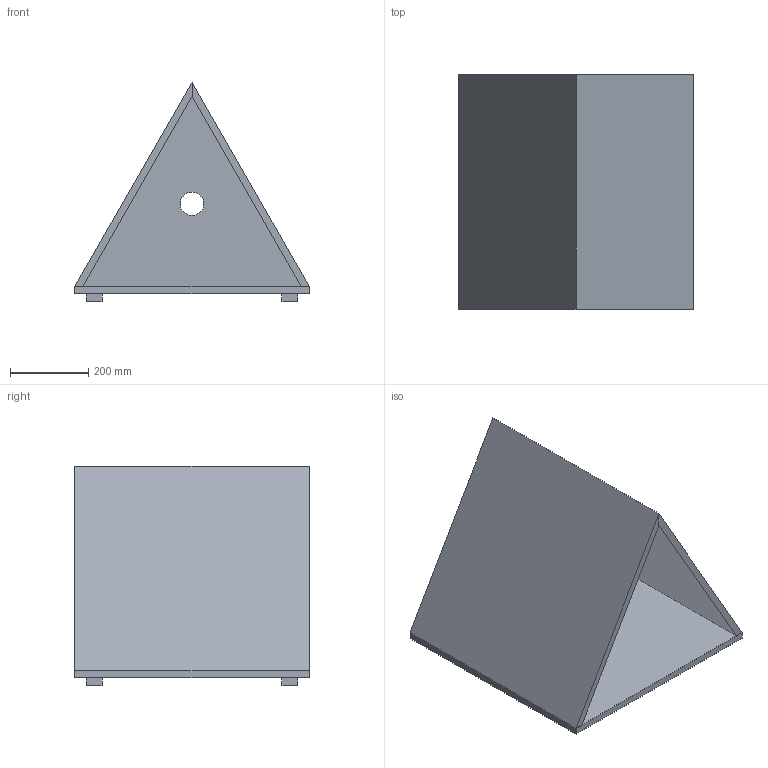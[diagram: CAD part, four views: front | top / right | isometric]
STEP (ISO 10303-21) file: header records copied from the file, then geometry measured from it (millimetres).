
FILE_DESCRIPTION(('Open CASCADE Model'),'2;1');
FILE_NAME('Open CASCADE Shape Model','2026-10-27T06:18:58',('Author'),( 'Open CASCADE'),'Open CASCADE STEP processor 7.8','Open CASCADE 7.8' ,'Unknown');
FILE_SCHEMA(('AUTOMOTIVE_DESIGN { 1 0 10303 214 1 1 1 1 }'));
Length unit declared in the file: millimetre
Products named in the file (9): Tent_cat_house; Floor; Roof_left; Roof_right; Rear; Foot_-250_-250; Foot_-250_250; Foot_250_-250; Foot_250_250
Assembly tree (8 placements, depth 2):
  Tent_cat_house
    Floor
    Roof_left
    Roof_right
    Rear
    Foot_-250_-250
    Foot_-250_250
    Foot_250_-250
    Foot_250_250
Bounding box: 600 x 600 x 560 mm (x, y, z)
Volume: 21553921.5 mm3; surface area: 2593188.7 mm2
Topology: 8 solids, 8 shells, 48 faces, 96 edges, 64 vertices
Faces by surface type: plane 47, cylinder 1
Full cylindrical faces by diameter (mm): 60 x1
Entity records: 2685 total; most frequent: CARTESIAN_POINT 421, DIRECTION 402, LINE 284, VECTOR 284, ORIENTED_EDGE 192, PCURVE 192, DEFINITIONAL_REPRESENTATION 192, EDGE_CURVE 96
